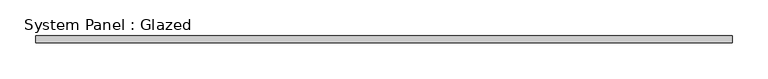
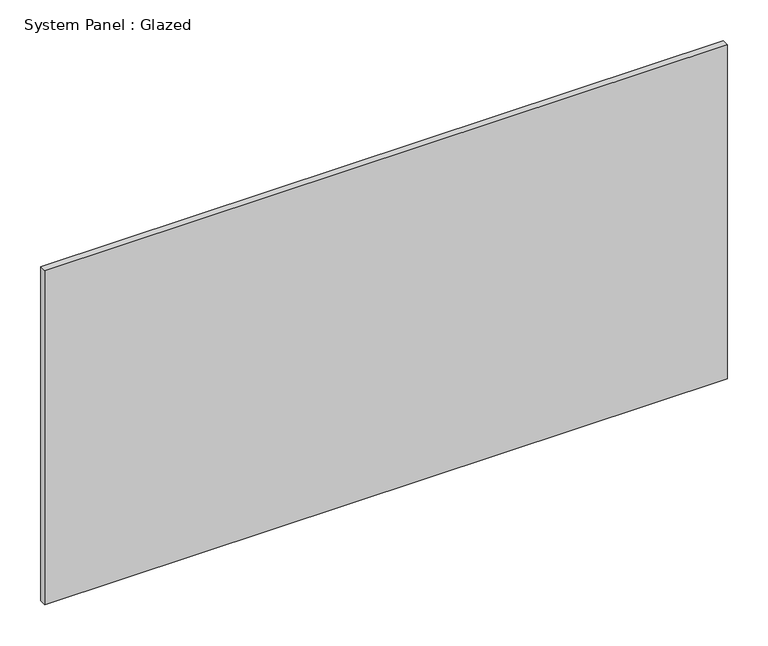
"""IFC4 building model written with IfcOpenShell, lengths in millimetres: plate geometry, System Panel : Glazed."""

from ifc_helpers import new_model, si_unit, origin, origin_with_axes, place, context, project, spatial, polyline, outline, extrude, source, transform, mapped, element, save


def system_panel_glazed_c8de9823(model_context):
    return source(origin(), model_context, "Body", "SweptSolid", [
        extrude(outline(polyline([(486.3037323, -5.0), (-486.3037323, -5.0), (-486.3037323, 5.0), (486.3037323, 5.0), (486.3037323, -5.0)])), origin_with_axes(), (0.0, 0.0, 1.0), 503.3333333),
    ])


if __name__ == "__main__":
    model = new_model("IFC4")
    model_context = context("Model", 3, world=origin())
    ifc_project = project(units=[si_unit("LENGTHUNIT", "METRE", prefix="MILLI")], contexts=[model_context])
    site = spatial("IfcSite", under=ifc_project)
    building = spatial("IfcBuilding", under=site)
    placement = place(None, origin())
    system_panel_glazed_shape = system_panel_glazed_c8de9823(model_context)
    element("IfcPlate", 1, ObjectType="System Panel : Glazed", at=placement, inside=building, context=model_context, shape_type="MappedRepresentation", body=[
        mapped(system_panel_glazed_shape, transform((0.0, 0.0, 0.0), x_axis=(1.0, 0.0, 0.0), y_axis=(0.0, 1.0, 0.0), z_axis=(0.0, 0.0, 1.0))),
    ])
    save(model, "model.ifc")
